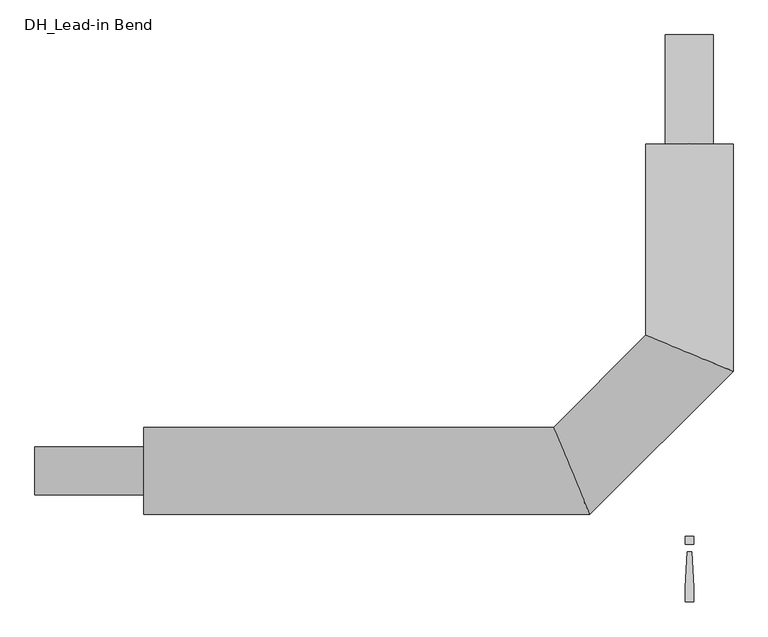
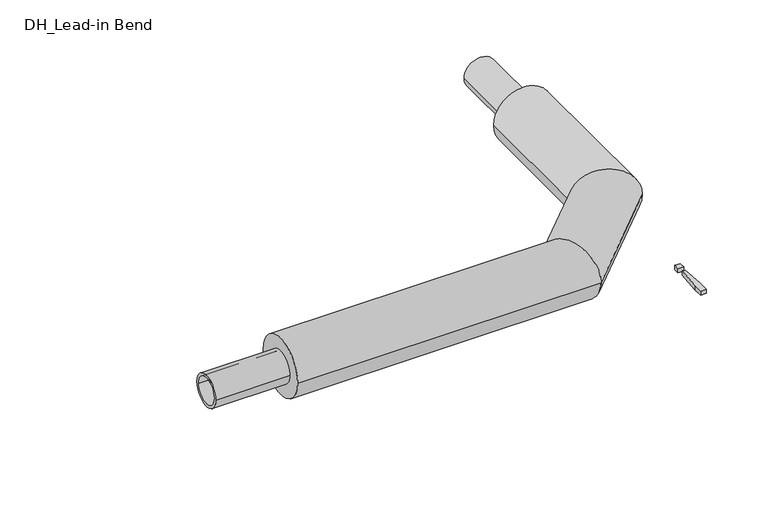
"""IFC4 building model written with IfcOpenShell, lengths in millimetres: pipe fitting geometry, DH_Lead-in Bend : INSULPEX UNO ++ 11 Heating."""

from ifc_helpers import new_model, si_unit, point, frame, origin, origin_with_axes, origin_2d, place, context, project, spatial, polyline, circle_curve, ellipse_curve, trimmed, segment, composite_curve, outline, extrude, source, transform, mapped, element, save
from ifc_brep_helpers import plane_surface, cylinder_surface, advanced_brep


def dh_lead_in_bend_4e561535(model_context):
    return source(origin(), model_context, "Body", "SolidModel", [
        advanced_brep(
        [(-1250.0, -100.0, 0.0), (-1250.0, 100.0, 0.0), (-228.5786438, -100.0, 0.0), (-311.4213562, 100.0, 0.0), (100.0, 750.0, 0.0), (-100.0, 750.0, 0.0), (-100.0, 311.4213562, 0.0), (100.0, 228.5786438, 0.0)],
        [
            (0, 1, circle_curve(frame((-1250.0, 0.0, 0.0), z_axis=(-1.0, 0.0, 0.0), x_axis=(0.0, 1.0, 0.0)), 100.0)),
            (1, 0, circle_curve(frame((-1250.0, 0.0, 0.0), z_axis=(-1.0, 0.0, 0.0), x_axis=(0.0, 1.0, 0.0)), 100.0)),
            (0, 2),
            (2, 3, ellipse_curve(frame((-270.0, 0.0, 0.0), z_axis=(-0.9238795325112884, -0.38268343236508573, 0.0), x_axis=(-0.3826834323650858, 0.9238795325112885, 0.0)), 108.23922, 100.0)),
            (3, 1),
            (3, 2, ellipse_curve(frame((-270.0, 0.0, 0.0), z_axis=(-0.9238795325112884, -0.38268343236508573, 0.0), x_axis=(-0.3826834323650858, 0.9238795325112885, 0.0)), 108.23922, 100.0)),
            (4, 5, circle_curve(frame((0.0, 750.0, 0.0), z_axis=(0.0, 1.0, 0.0), x_axis=(-1.0, 0.0, 0.0)), 100.0)),
            (5, 4, circle_curve(frame((0.0, 750.0, 0.0), z_axis=(0.0, 1.0, 0.0), x_axis=(-1.0, 0.0, 0.0)), 100.0)),
            (6, 7, ellipse_curve(frame((0.0, 270.0, 0.0), z_axis=(0.38268343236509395, 0.9238795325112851, 0.0), x_axis=(0.9238795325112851, -0.38268343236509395, 0.0)), 108.23922, 100.0)),
            (7, 4),
            (5, 6),
            (7, 6, ellipse_curve(frame((0.0, 270.0, 0.0), z_axis=(0.38268343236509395, 0.9238795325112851, 0.0), x_axis=(0.9238795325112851, -0.38268343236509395, 0.0)), 108.23922, 100.0)),
            (2, 7),
            (6, 3),
        ],
        [
            plane_surface(frame((-1250.0, 0.0, 0.0), z_axis=(-1.0, 0.0, 0.0), x_axis=(0.0, 0.0, 1.0))),
            cylinder_surface(frame((-1250.0, 0.0, 0.0), z_axis=(-1.0, 0.0, 0.0), x_axis=(0.0, 1.0, 0.0)), 100.0),
            plane_surface(frame((0.0, 750.0, 0.0), z_axis=(0.0, 1.0, 0.0), x_axis=(0.0, 0.0, 1.0))),
            cylinder_surface(frame((0.0, 270.0, 0.0), z_axis=(0.0, -1.0, 0.0), x_axis=(-1.0, 0.0, 0.0)), 100.0),
            cylinder_surface(frame((-270.0, 0.0, 0.0), z_axis=(-0.7071067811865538, -0.7071067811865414, 0.0), x_axis=(-0.7071067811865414, 0.7071067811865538, 0.0)), 100.0),
        ],
        [
            (0, [[1, 2]]),
            (1, [[-1, 3, 4, 5]]),
            (1, [[-2, -5, 6, -3]]),
            (2, [[7, 8]]),
            (3, [[9, 10, -8, 11]]),
            (3, [[12, -11, -7, -10]]),
            (4, [[-4, 13, -9, 14]]),
            (4, [[-6, -14, -12, -13]]),
        ],
    ),
        extrude(outline(polyline([(4.7088895, -185.3166715), (9.4177791, -266.6553807), (9.4177791, -300.6844652), (-9.4177791, -300.6844652), (-9.4177791, -266.6553807), (-4.7088895, -185.3166715), (4.7088895, -185.3166715)])), origin_with_axes(), (0.0, 0.0, 1.0), 15.0),
        extrude(outline(polyline([(9.4177791, -150.0), (9.4177791, -168.8355582), (-9.4177791, -168.8355582), (-9.4177791, -150.0), (9.4177791, -150.0)])), origin_with_axes(), (0.0, 0.0, 1.0), 15.0),
        extrude(outline(composite_curve([segment(trimmed(circle_curve(origin_2d(), 55.0), [point((-55.0, 0.0))], [point((55.0, 0.0))], False, "CARTESIAN"), True, "CONTINUOUS"), segment(trimmed(circle_curve(origin_2d(), 55.0), [point((55.0, 0.0))], [point((-55.0, 0.0))], False, "CARTESIAN"), True, "CONTINUOUS")], self_intersect=False), holes=[composite_curve([segment(trimmed(circle_curve(origin_2d(), 45.0), [point((-45.0, 0.0))], [point((45.0, 0.0))], True, "CARTESIAN"), True, "CONTINUOUS"), segment(trimmed(circle_curve(origin_2d(), 45.0), [point((45.0, 0.0))], [point((-45.0, 0.0))], True, "CARTESIAN"), True, "CONTINUOUS")], self_intersect=False)]), frame((-1500.0, 0.0, 0.0), z_axis=(1.0, 0.0, 0.0), x_axis=(0.0, 1.0, 0.0)), (0.0, 0.0, 1.0), 250.0),
        extrude(outline(composite_curve([segment(trimmed(circle_curve(origin_2d(), 55.0), [point((0.0, 55.0))], [point((0.0, -55.0))], False, "CARTESIAN"), True, "CONTINUOUS"), segment(trimmed(circle_curve(origin_2d(), 55.0), [point((0.0, -55.0))], [point((0.0, 55.0))], False, "CARTESIAN"), True, "CONTINUOUS")], self_intersect=False), holes=[composite_curve([segment(trimmed(circle_curve(origin_2d(), 45.0), [point((0.0, 45.0))], [point((0.0, -45.0))], True, "CARTESIAN"), True, "CONTINUOUS"), segment(trimmed(circle_curve(origin_2d(), 45.0), [point((0.0, -45.0))], [point((0.0, 45.0))], True, "CARTESIAN"), True, "CONTINUOUS")], self_intersect=False)]), frame((0.0, 750.0, 0.0), z_axis=(0.0, 1.0, 0.0), x_axis=(0.0, 0.0, 1.0)), (0.0, 0.0, 1.0), 250.0),
    ])


if __name__ == "__main__":
    model = new_model("IFC4")
    model_context = context("Model", 3, world=origin())
    ifc_project = project(units=[si_unit("LENGTHUNIT", "METRE", prefix="MILLI")], contexts=[model_context])
    site = spatial("IfcSite", under=ifc_project)
    building = spatial("IfcBuilding", under=site)
    placement = place(None, origin())
    dh_lead_in_bend_shape = dh_lead_in_bend_4e561535(model_context)
    element("IfcPipeFitting", 1, ObjectType="DH_Lead-in Bend : INSULPEX UNO ++ 11 Heating", at=placement, inside=building, context=model_context, shape_type="MappedRepresentation", body=[
        mapped(dh_lead_in_bend_shape, transform((0.0, 0.0, 0.0), x_axis=(1.0, 0.0, 0.0), y_axis=(0.0, 1.0, 0.0), z_axis=(0.0, 0.0, 1.0))),
    ])
    save(model, "model.ifc")
